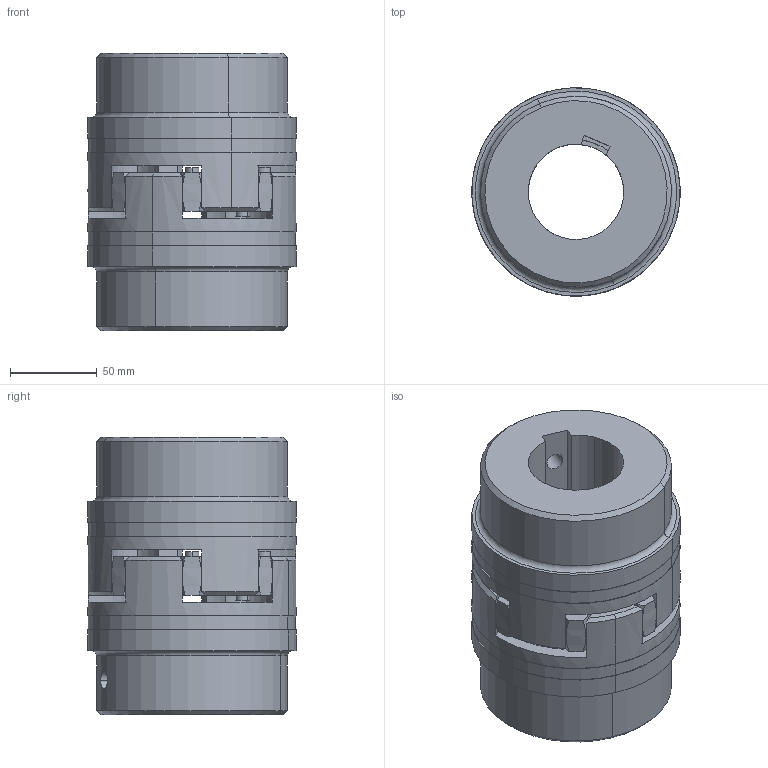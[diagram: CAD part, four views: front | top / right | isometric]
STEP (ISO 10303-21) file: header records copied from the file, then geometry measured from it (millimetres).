
FILE_DESCRIPTION (( 'STEP AP214' ), '1' );
FILE_NAME ('Po³¹czenie Rotex 55.STEP', '2026-05-26T08:22:23', ( '' ), ( '' ), 'SwSTEP 2.0', 'SolidWorks 2022', '' );
FILE_SCHEMA (( 'AUTOMOTIVE_DESIGN' ));
Length unit declared in the file: millimetre
Products named in the file (4): Po³¹czenie Rotex 55; Rotex 55.stp; £¹cznik Rotex 55.stp
Assembly tree (3 placements, depth 2):
  Po³¹czenie Rotex 55
    £¹cznik Rotex 55.stp
    Rotex 55.stp
    Rotex 55.stp
Bounding box: 119.94 x 119.94 x 160 mm (x, y, z)
Volume: 1202713.5 mm3; surface area: 151588.3 mm2
Topology: 3 solids, 3 shells, 154 faces, 392 edges, 258 vertices
Faces by surface type: cylinder 70, plane 34, bspline 32, cone 14, torus 4
Entity records: 6663 total; most frequent: CARTESIAN_POINT 2909, ORIENTED_EDGE 784, DIRECTION 722, EDGE_CURVE 392, AXIS2_PLACEMENT_3D 318, VERTEX_POINT 258, CIRCLE 190, EDGE_LOOP 178
